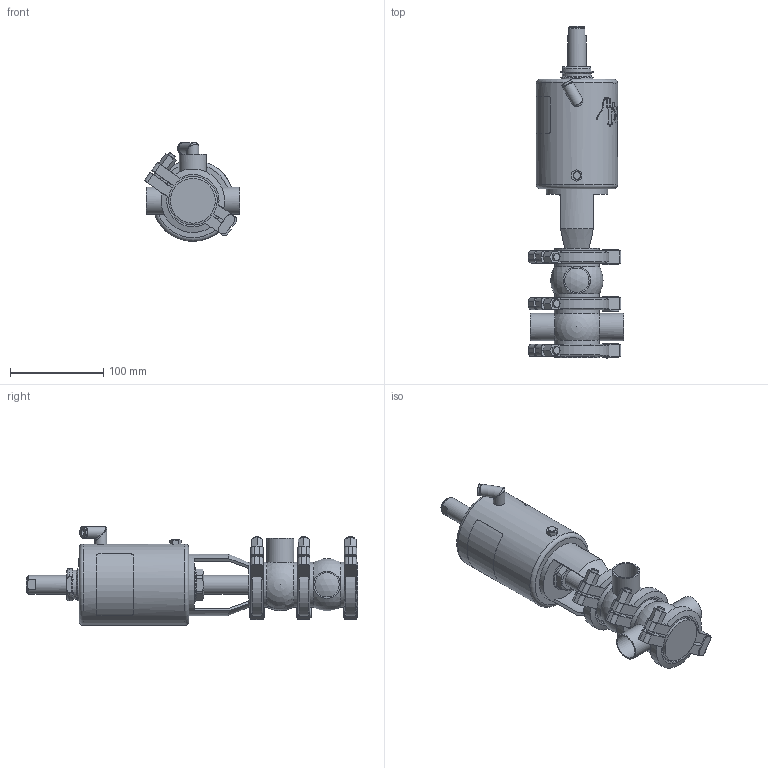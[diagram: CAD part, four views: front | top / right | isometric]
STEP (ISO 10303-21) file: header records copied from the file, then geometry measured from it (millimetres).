
FILE_DESCRIPTION (( 'STEP AP214' ), '1' );
FILE_NAME ('INNOVA M B W DIN 025 T1 AS NC_10.241.16.0004.STEP', '2024-08-07T13:06:05', ( '' ), ( '' ), 'SwSTEP 2.0', 'SolidWorks 2023', '' );
FILE_SCHEMA (( 'AUTOMOTIVE_DESIGN' ));
Length unit declared in the file: millimetre
Products named in the file (7): 10.241.15.0001_DIN 025; 10.240.15.0010_DN 025; 10.240.15.0007_DIN 025; INNOVA M B W DIN 025 T1 AS NC_10.241.16.0004; 10.240.15.0006_DIN 025; 10.240.15.0001_DN 025; 10.240.15.0014_T1 AS P180
Assembly tree (8 placements, depth 2):
  INNOVA M B W DIN 025 T1 AS NC_10.241.16.0004
    10.240.15.0006_DIN 025
    10.240.15.0007_DIN 025
    10.240.15.0010_DN 025
    10.240.15.0014_T1 AS P180
    10.240.15.0001_DN 025  x3
    10.241.15.0001_DIN 025
Bounding box: 101.94 x 355.09 x 105.75 mm (x, y, z)
Volume: 1122260.2 mm3; surface area: 167589.7 mm2
Topology: 9 solids, 9 shells, 469 faces, 1248 edges, 812 vertices
Faces by surface type: plane 226, cylinder 113, bspline 80, cone 40, sphere 6, torus 4
Full cylindrical faces by diameter (mm): 6.15 x1, 8 x7, 8.5 x1, 10.5 x1, 12.5 x3, 16 x1, 20 x2, 26 x3, 29 x3, 31 x1, 34.5 x2, 36.5 x1, 48 x6, 59.7 x6, 66 x1, 87 x1
Entity records: 19903 total; most frequent: CARTESIAN_POINT 10296, ORIENTED_EDGE 1674, DIRECTION 1313, EDGE_CURVE 837, VERTEX_POINT 576, AXIS2_PLACEMENT_3D 508, EDGE_LOOP 431, FACE_OUTER_BOUND 391
